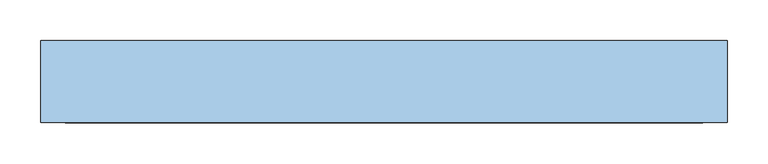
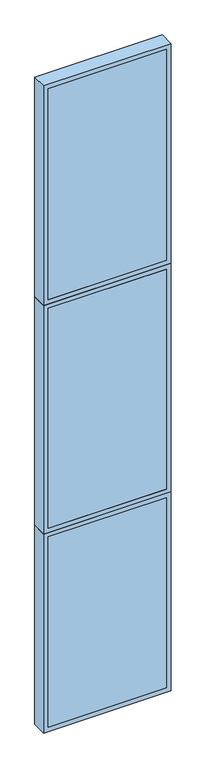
"""IFC4 building model written with IfcOpenShell, lengths in millimetres: window geometry, TRP_CP_ARC_FI_V1 : AL_P03_84."""

from ifc_helpers import new_model, si_unit, frame, origin, place, context, project, spatial, polyline, outline, extrude, source, transform, mapped, element, save


def window_54e6ce9d(model_context):
    return source(origin(), model_context, "Body", "SweptSolid", [
        extrude(outline(polyline([(390.0, -50.0), (-390.0, -50.0), (-390.0, -30.0), (390.0, -30.0), (390.0, -50.0)])), frame((0.0, 0.0, 30.0), z_axis=(0.0, 0.0, 1.0), x_axis=(1.0, 0.0, 0.0)), (0.0, 0.0, 1.0), 1323.0),
        extrude(outline(polyline([(1383.0, 420.0), (1383.0, -420.0), (0.0, -420.0), (0.0, 420.0), (1383.0, 420.0)]), holes=[polyline([(30.0, 390.0), (30.0, -390.0), (1353.0, -390.0), (1353.0, 390.0), (30.0, 390.0)])]), frame((0.0, -50.0, 0.0), z_axis=(0.0, 1.0, 0.0), x_axis=(0.0, 0.0, 1.0)), (0.0, 0.0, 1.0), 100.0),
        extrude(outline(polyline([(2973.0, 420.0), (2973.0, -420.0), (1383.0, -420.0), (1383.0, 420.0), (2973.0, 420.0)]), holes=[polyline([(1413.0, 390.0), (1413.0, -390.0), (2943.0, -390.0), (2943.0, 390.0), (1413.0, 390.0)])]), frame((0.0, -50.0, 0.0), z_axis=(0.0, 1.0, 0.0), x_axis=(0.0, 0.0, 1.0)), (0.0, 0.0, 1.0), 100.0),
        extrude(outline(polyline([(390.0, -50.0), (-390.0, -50.0), (-390.0, -30.0), (390.0, -30.0), (390.0, -50.0)])), frame((0.0, 0.0, 1413.0), z_axis=(0.0, 0.0, 1.0), x_axis=(1.0, 0.0, 0.0)), (0.0, 0.0, 1.0), 1530.0),
        extrude(outline(polyline([(4500.0, 420.0), (4500.0, -420.0), (2973.0, -420.0), (2973.0, 420.0), (4500.0, 420.0)]), holes=[polyline([(3003.0, 390.0), (3003.0, -390.0), (4470.0, -390.0), (4470.0, 390.0), (3003.0, 390.0)])]), frame((0.0, -50.0, 0.0), z_axis=(0.0, 1.0, 0.0), x_axis=(0.0, 0.0, 1.0)), (0.0, 0.0, 1.0), 100.0),
        extrude(outline(polyline([(390.0, -50.0), (-390.0, -50.0), (-390.0, -30.0), (390.0, -30.0), (390.0, -50.0)])), frame((0.0, 0.0, 3003.0), z_axis=(0.0, 0.0, 1.0), x_axis=(1.0, 0.0, 0.0)), (0.0, 0.0, 1.0), 1467.0),
    ])


if __name__ == "__main__":
    model = new_model("IFC4")
    model_context = context("Model", 3, world=origin())
    ifc_project = project(units=[si_unit("LENGTHUNIT", "METRE", prefix="MILLI")], contexts=[model_context])
    site = spatial("IfcSite", under=ifc_project)
    building = spatial("IfcBuilding", under=site)
    placement = place(None, origin())
    window_shape = window_54e6ce9d(model_context)
    element("IfcWindow", 1, ObjectType="TRP_CP_ARC_FI_V1 : AL_P03_84", at=placement, inside=building, context=model_context, shape_type="MappedRepresentation", body=[
        mapped(window_shape, transform((0.0, 0.0, 0.0), x_axis=(1.0, 0.0, 0.0), y_axis=(0.0, 1.0, 0.0), z_axis=(0.0, 0.0, 1.0))),
    ])
    save(model, "model.ifc")
